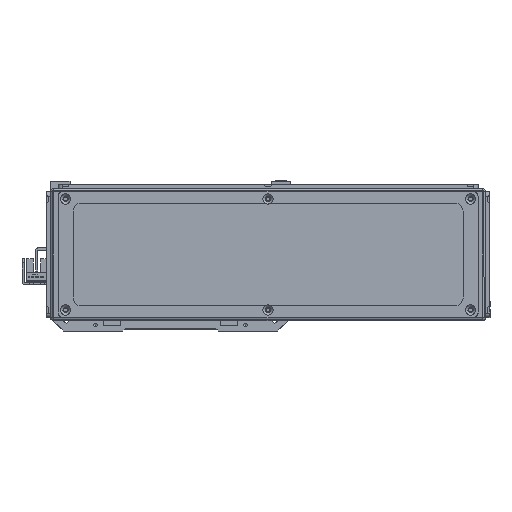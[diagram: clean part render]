
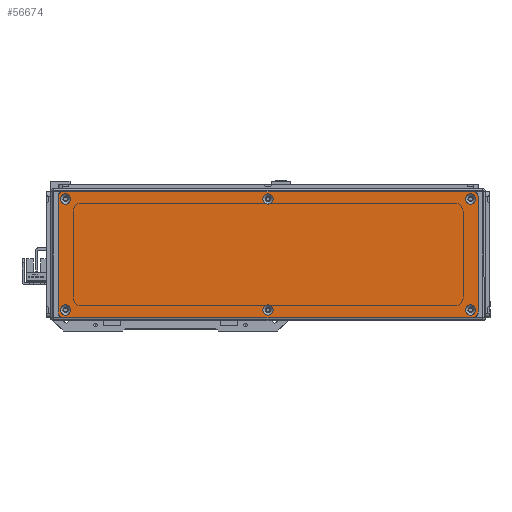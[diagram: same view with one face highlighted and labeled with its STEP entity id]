
A CAD part, front view. The second image highlights one B-rep face of the part: STEP entity #56674.
In plain terms, the highlighted planar face has unit normal (0, -1, 0).
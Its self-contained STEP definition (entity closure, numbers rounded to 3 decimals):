
#1705=FACE_BOUND('',#8927,.T.);
#1706=FACE_BOUND('',#8928,.T.);
#1707=FACE_BOUND('',#8929,.T.);
#1708=FACE_BOUND('',#8930,.T.);
#1709=FACE_BOUND('',#8931,.T.);
#1710=FACE_BOUND('',#8932,.T.);
#2316=PLANE('',#60970);
#5744=FACE_OUTER_BOUND('',#8926,.T.);
#8926=EDGE_LOOP('',(#44800,#44801,#44802,#44803,#44804,#44805,#44806,#44807));
#8927=EDGE_LOOP('',(#44808));
#8928=EDGE_LOOP('',(#44809));
#8929=EDGE_LOOP('',(#44810));
#8930=EDGE_LOOP('',(#44811));
#8931=EDGE_LOOP('',(#44812));
#8932=EDGE_LOOP('',(#44813));
#12637=LINE('',#87166,#19122);
#12638=LINE('',#87170,#19123);
#12639=LINE('',#87174,#19124);
#12640=LINE('',#87177,#19125);
#19122=VECTOR('',#68897,10.);
#19123=VECTOR('',#68900,10.);
#19124=VECTOR('',#68903,10.);
#19125=VECTOR('',#68906,10.);
#24997=CIRCLE('',#60938,3.45);
#25000=CIRCLE('',#60943,3.45);
#25003=CIRCLE('',#60948,3.45);
#25006=CIRCLE('',#60953,3.45);
#25009=CIRCLE('',#60958,3.45);
#25012=CIRCLE('',#60963,3.45);
#25015=CIRCLE('',#60968,3.);
#25017=CIRCLE('',#60971,3.);
#25018=CIRCLE('',#60972,3.);
#25019=CIRCLE('',#60973,3.);
#27319=VERTEX_POINT('',#87096);
#27322=VERTEX_POINT('',#87106);
#27325=VERTEX_POINT('',#87116);
#27328=VERTEX_POINT('',#87126);
#27331=VERTEX_POINT('',#87136);
#27334=VERTEX_POINT('',#87146);
#27337=VERTEX_POINT('',#87156);
#27338=VERTEX_POINT('',#87157);
#27341=VERTEX_POINT('',#87165);
#27342=VERTEX_POINT('',#87167);
#27343=VERTEX_POINT('',#87169);
#27344=VERTEX_POINT('',#87171);
#27345=VERTEX_POINT('',#87173);
#27346=VERTEX_POINT('',#87175);
#33726=EDGE_CURVE('',#27319,#27319,#24997,.T.);
#33731=EDGE_CURVE('',#27322,#27322,#25000,.T.);
#33736=EDGE_CURVE('',#27325,#27325,#25003,.T.);
#33741=EDGE_CURVE('',#27328,#27328,#25006,.T.);
#33746=EDGE_CURVE('',#27331,#27331,#25009,.T.);
#33751=EDGE_CURVE('',#27334,#27334,#25012,.T.);
#33756=EDGE_CURVE('',#27337,#27338,#25015,.T.);
#33760=EDGE_CURVE('',#27337,#27341,#12637,.T.);
#33761=EDGE_CURVE('',#27342,#27341,#25017,.T.);
#33762=EDGE_CURVE('',#27342,#27343,#12638,.T.);
#33763=EDGE_CURVE('',#27344,#27343,#25018,.T.);
#33764=EDGE_CURVE('',#27344,#27345,#12639,.T.);
#33765=EDGE_CURVE('',#27346,#27345,#25019,.T.);
#33766=EDGE_CURVE('',#27346,#27338,#12640,.T.);
#44800=ORIENTED_EDGE('',*,*,#33756,.F.);
#44801=ORIENTED_EDGE('',*,*,#33760,.T.);
#44802=ORIENTED_EDGE('',*,*,#33761,.F.);
#44803=ORIENTED_EDGE('',*,*,#33762,.T.);
#44804=ORIENTED_EDGE('',*,*,#33763,.F.);
#44805=ORIENTED_EDGE('',*,*,#33764,.T.);
#44806=ORIENTED_EDGE('',*,*,#33765,.F.);
#44807=ORIENTED_EDGE('',*,*,#33766,.T.);
#44808=ORIENTED_EDGE('',*,*,#33726,.T.);
#44809=ORIENTED_EDGE('',*,*,#33731,.T.);
#44810=ORIENTED_EDGE('',*,*,#33736,.T.);
#44811=ORIENTED_EDGE('',*,*,#33741,.T.);
#44812=ORIENTED_EDGE('',*,*,#33746,.T.);
#44813=ORIENTED_EDGE('',*,*,#33751,.T.);
#56674=ADVANCED_FACE('',(#5744,#1705,#1706,#1707,#1708,#1709,#1710),#2316,
 .T.);
#60938=AXIS2_PLACEMENT_3D('',#87097,#68817,#68818);
#60943=AXIS2_PLACEMENT_3D('',#87107,#68829,#68830);
#60948=AXIS2_PLACEMENT_3D('',#87117,#68841,#68842);
#60953=AXIS2_PLACEMENT_3D('',#87127,#68853,#68854);
#60958=AXIS2_PLACEMENT_3D('',#87137,#68865,#68866);
#60963=AXIS2_PLACEMENT_3D('',#87147,#68877,#68878);
#60968=AXIS2_PLACEMENT_3D('',#87158,#68889,#68890);
#60970=AXIS2_PLACEMENT_3D('',#87164,#68895,#68896);
#60971=AXIS2_PLACEMENT_3D('',#87168,#68898,#68899);
#60972=AXIS2_PLACEMENT_3D('',#87172,#68901,#68902);
#60973=AXIS2_PLACEMENT_3D('',#87176,#68904,#68905);
#68817=DIRECTION('center_axis',(0.,1.,0.));
#68818=DIRECTION('ref_axis',(1.,0.,0.));
#68829=DIRECTION('center_axis',(0.,1.,0.));
#68830=DIRECTION('ref_axis',(1.,0.,0.));
#68841=DIRECTION('center_axis',(0.,1.,0.));
#68842=DIRECTION('ref_axis',(1.,0.,0.));
#68853=DIRECTION('center_axis',(0.,1.,0.));
#68854=DIRECTION('ref_axis',(1.,0.,0.));
#68865=DIRECTION('center_axis',(0.,1.,0.));
#68866=DIRECTION('ref_axis',(1.,0.,0.));
#68877=DIRECTION('center_axis',(0.,1.,0.));
#68878=DIRECTION('ref_axis',(1.,0.,0.));
#68889=DIRECTION('center_axis',(0.,1.,0.));
#68890=DIRECTION('ref_axis',(-0.707,0.,0.707));
#68895=DIRECTION('center_axis',(0.,-1.,0.));
#68896=DIRECTION('ref_axis',(0.,0.,-1.));
#68897=DIRECTION('',(0.,0.,-1.));
#68898=DIRECTION('center_axis',(0.,1.,0.));
#68899=DIRECTION('ref_axis',(-0.707,0.,-0.707));
#68900=DIRECTION('',(1.,0.,0.));
#68901=DIRECTION('center_axis',(0.,1.,0.));
#68902=DIRECTION('ref_axis',(0.707,0.,-0.707));
#68903=DIRECTION('',(0.,0.,1.));
#68904=DIRECTION('center_axis',(0.,1.,0.));
#68905=DIRECTION('ref_axis',(0.707,0.,0.707));
#68906=DIRECTION('',(-1.,0.,0.));
#87096=CARTESIAN_POINT('',(131.55,-1.5,37.));
#87097=CARTESIAN_POINT('Origin',(135.,-1.5,37.));
#87106=CARTESIAN_POINT('',(-138.45,-1.5,-37.));
#87107=CARTESIAN_POINT('Origin',(-135.,-1.5,-37.));
#87116=CARTESIAN_POINT('',(-3.45,-1.5,37.));
#87117=CARTESIAN_POINT('Origin',(0.,-1.5,37.));
#87126=CARTESIAN_POINT('',(-3.45,-1.5,-37.));
#87127=CARTESIAN_POINT('Origin',(0.,-1.5,-37.));
#87136=CARTESIAN_POINT('',(-138.45,-1.5,37.));
#87137=CARTESIAN_POINT('Origin',(-135.,-1.5,37.));
#87146=CARTESIAN_POINT('',(131.55,-1.5,-37.));
#87147=CARTESIAN_POINT('Origin',(135.,-1.5,-37.));
#87156=CARTESIAN_POINT('',(-140.,-1.5,39.));
#87157=CARTESIAN_POINT('',(-137.,-1.5,42.));
#87158=CARTESIAN_POINT('Origin',(-137.,-1.5,39.));
#87164=CARTESIAN_POINT('Origin',(0.,-1.5,0.));
#87165=CARTESIAN_POINT('',(-140.,-1.5,-39.));
#87166=CARTESIAN_POINT('',(-140.,-1.5,42.));
#87167=CARTESIAN_POINT('',(-137.,-1.5,-42.));
#87168=CARTESIAN_POINT('Origin',(-137.,-1.5,-39.));
#87169=CARTESIAN_POINT('',(137.,-1.5,-42.));
#87170=CARTESIAN_POINT('',(-140.,-1.5,-42.));
#87171=CARTESIAN_POINT('',(140.,-1.5,-39.));
#87172=CARTESIAN_POINT('Origin',(137.,-1.5,-39.));
#87173=CARTESIAN_POINT('',(140.,-1.5,39.));
#87174=CARTESIAN_POINT('',(140.,-1.5,-42.));
#87175=CARTESIAN_POINT('',(137.,-1.5,42.));
#87176=CARTESIAN_POINT('Origin',(137.,-1.5,39.));
#87177=CARTESIAN_POINT('',(140.,-1.5,42.));
